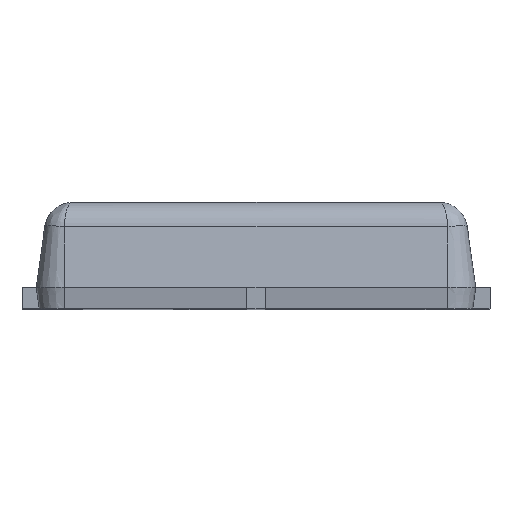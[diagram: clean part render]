
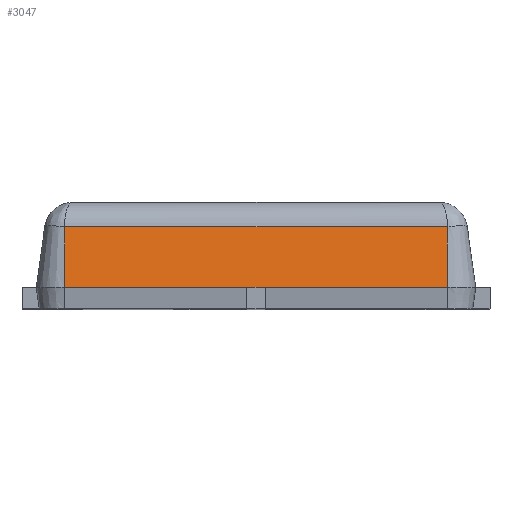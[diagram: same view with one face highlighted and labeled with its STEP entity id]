
A CAD part, top view. The second image highlights one B-rep face of the part: STEP entity #3047.
In plain terms, the highlighted planar face has unit normal (0, 0.139, 0.99).
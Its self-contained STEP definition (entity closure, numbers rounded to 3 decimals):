
#13 = VERTEX_POINT ( 'NONE', #1006 ) ;
#45 = EDGE_CURVE ( 'NONE', #4201, #5303, #2545, .T. ) ;
#317 = DIRECTION ( 'NONE',  ( 1., 0., 0. ) ) ;
#385 = VECTOR ( 'NONE', #317, 1000. ) ;
#431 = CARTESIAN_POINT ( 'NONE',  ( 1.35, 0., 1.55 ) ) ;
#628 = CARTESIAN_POINT ( 'NONE',  ( 1.35, 0., 1.55 ) ) ;
#720 = EDGE_CURVE ( 'NONE', #4201, #2221, #5398, .T. ) ;
#866 = LINE ( 'NONE', #3689, #385 ) ;
#931 = LINE ( 'NONE', #5782, #2700 ) ;
#949 = CARTESIAN_POINT ( 'NONE',  ( 1.35, 0., 1.55 ) ) ;
#955 = CARTESIAN_POINT ( 'NONE',  ( -1.35, 0., 1.55 ) ) ;
#963 = DIRECTION ( 'NONE',  ( 0., -0.99, 0.139 ) ) ;
#1006 = CARTESIAN_POINT ( 'NONE',  ( -1.35, 0., 1.55 ) ) ;
#1024 = VECTOR ( 'NONE', #4362, 1000. ) ;
#1029 = VECTOR ( 'NONE', #3374, 1000. ) ;
#1093 = ORIENTED_EDGE ( 'NONE', *, *, #720, .F. ) ;
#1133 = EDGE_CURVE ( 'NONE', #4968, #1792, #2921, .T. ) ;
#1140 = ORIENTED_EDGE ( 'NONE', *, *, #45, .T. ) ;
#1266 = CARTESIAN_POINT ( 'NONE',  ( 1.35, 0.428, 1.49 ) ) ;
#1463 = DIRECTION ( 'NONE',  ( 0., 0.139, 0.99 ) ) ;
#1606 = DIRECTION ( 'NONE',  ( 0., -0.99, 0.139 ) ) ;
#1792 = VERTEX_POINT ( 'NONE', #2135 ) ;
#2093 = ORIENTED_EDGE ( 'NONE', *, *, #3686, .T. ) ;
#2135 = CARTESIAN_POINT ( 'NONE',  ( 0.065, 0., 1.55 ) ) ;
#2221 = VERTEX_POINT ( 'NONE', #2270 ) ;
#2270 = CARTESIAN_POINT ( 'NONE',  ( 1.35, 0., 1.55 ) ) ;
#2383 = FACE_OUTER_BOUND ( 'NONE', #4010, .T. ) ;
#2545 = LINE ( 'NONE', #4863, #1024 ) ;
#2700 = VECTOR ( 'NONE', #5752, 1000. ) ;
#2921 = LINE ( 'NONE', #949, #4003 ) ;
#3004 = ORIENTED_EDGE ( 'NONE', *, *, #4077, .T. ) ;
#3047 = ADVANCED_FACE ( 'NONE', ( #2383 ), #5261, .T. ) ;
#3152 = ORIENTED_EDGE ( 'NONE', *, *, #1133, .T. ) ;
#3322 = CARTESIAN_POINT ( 'NONE',  ( -1.35, 0.428, 1.49 ) ) ;
#3374 = DIRECTION ( 'NONE',  ( 0., -0.99, 0.139 ) ) ;
#3413 = ORIENTED_EDGE ( 'NONE', *, *, #4873, .T. ) ;
#3686 = EDGE_CURVE ( 'NONE', #13, #4968, #931, .T. ) ;
#3689 = CARTESIAN_POINT ( 'NONE',  ( 1.35, 0., 1.55 ) ) ;
#3902 = CARTESIAN_POINT ( 'NONE',  ( -0.065, 0., 1.55 ) ) ;
#4003 = VECTOR ( 'NONE', #6183, 1000. ) ;
#4010 = EDGE_LOOP ( 'NONE', ( #1093, #1140, #3413, #2093, #3152, #3004 ) ) ;
#4077 = EDGE_CURVE ( 'NONE', #1792, #2221, #866, .T. ) ;
#4201 = VERTEX_POINT ( 'NONE', #1266 ) ;
#4362 = DIRECTION ( 'NONE',  ( -1., 0., 0. ) ) ;
#4792 = AXIS2_PLACEMENT_3D ( 'NONE', #431, #1463, #963 ) ;
#4863 = CARTESIAN_POINT ( 'NONE',  ( -1.35, 0.428, 1.49 ) ) ;
#4873 = EDGE_CURVE ( 'NONE', #5303, #13, #5219, .T. ) ;
#4968 = VERTEX_POINT ( 'NONE', #3902 ) ;
#5219 = LINE ( 'NONE', #955, #1029 ) ;
#5261 = PLANE ( 'NONE',  #4792 ) ;
#5303 = VERTEX_POINT ( 'NONE', #3322 ) ;
#5398 = LINE ( 'NONE', #628, #5401 ) ;
#5401 = VECTOR ( 'NONE', #1606, 1000. ) ;
#5752 = DIRECTION ( 'NONE',  ( 1., 0., 0. ) ) ;
#5782 = CARTESIAN_POINT ( 'NONE',  ( 1.35, 0., 1.55 ) ) ;
#6183 = DIRECTION ( 'NONE',  ( 1., 0., 0. ) ) ;
